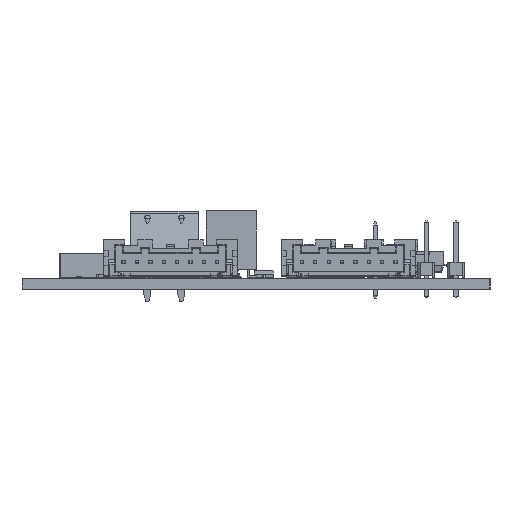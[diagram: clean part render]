
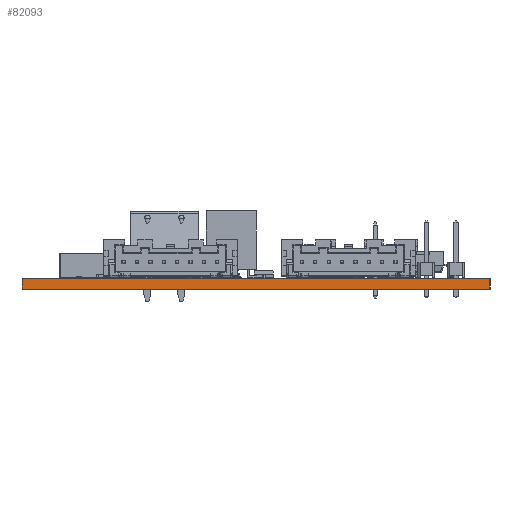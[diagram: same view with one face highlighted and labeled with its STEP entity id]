
A CAD part, left-side view. The second image highlights one B-rep face of the part: STEP entity #82093.
In plain terms, the highlighted planar face has unit normal (-1, 0, 0).
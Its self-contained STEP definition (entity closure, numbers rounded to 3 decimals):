
#82037 = VERTEX_POINT('',#82038);
#82038 = CARTESIAN_POINT('',(0.,0.,1.6));
#82044 = EDGE_CURVE('',#82045,#82037,#82047,.T.);
#82045 = VERTEX_POINT('',#82046);
#82046 = CARTESIAN_POINT('',(0.,-0.,0.));
#82047 = LINE('',#82048,#82049);
#82048 = CARTESIAN_POINT('',(0.,-0.,0.));
#82049 = VECTOR('',#82050,1.);
#82050 = DIRECTION('',(0.,0.,1.));
#82093 = ADVANCED_FACE('',(#82094),#82119,.T.);
#82094 = FACE_BOUND('',#82095,.T.);
#82095 = EDGE_LOOP('',(#82096,#82097,#82105,#82113));
#82096 = ORIENTED_EDGE('',*,*,#82044,.T.);
#82097 = ORIENTED_EDGE('',*,*,#82098,.T.);
#82098 = EDGE_CURVE('',#82037,#82099,#82101,.T.);
#82099 = VERTEX_POINT('',#82100);
#82100 = CARTESIAN_POINT('',(0.,70.,1.6));
#82101 = LINE('',#82102,#82103);
#82102 = CARTESIAN_POINT('',(0.,0.,1.6));
#82103 = VECTOR('',#82104,1.);
#82104 = DIRECTION('',(0.,1.,0.));
#82105 = ORIENTED_EDGE('',*,*,#82106,.F.);
#82106 = EDGE_CURVE('',#82107,#82099,#82109,.T.);
#82107 = VERTEX_POINT('',#82108);
#82108 = CARTESIAN_POINT('',(0.,70.,0.));
#82109 = LINE('',#82110,#82111);
#82110 = CARTESIAN_POINT('',(0.,70.,0.));
#82111 = VECTOR('',#82112,1.);
#82112 = DIRECTION('',(0.,0.,1.));
#82113 = ORIENTED_EDGE('',*,*,#82114,.F.);
#82114 = EDGE_CURVE('',#82045,#82107,#82115,.T.);
#82115 = LINE('',#82116,#82117);
#82116 = CARTESIAN_POINT('',(0.,-0.,0.));
#82117 = VECTOR('',#82118,1.);
#82118 = DIRECTION('',(0.,1.,0.));
#82119 = PLANE('',#82120);
#82120 = AXIS2_PLACEMENT_3D('',#82121,#82122,#82123);
#82121 = CARTESIAN_POINT('',(0.,0.,0.));
#82122 = DIRECTION('',(-1.,0.,0.));
#82123 = DIRECTION('',(0.,1.,0.));
